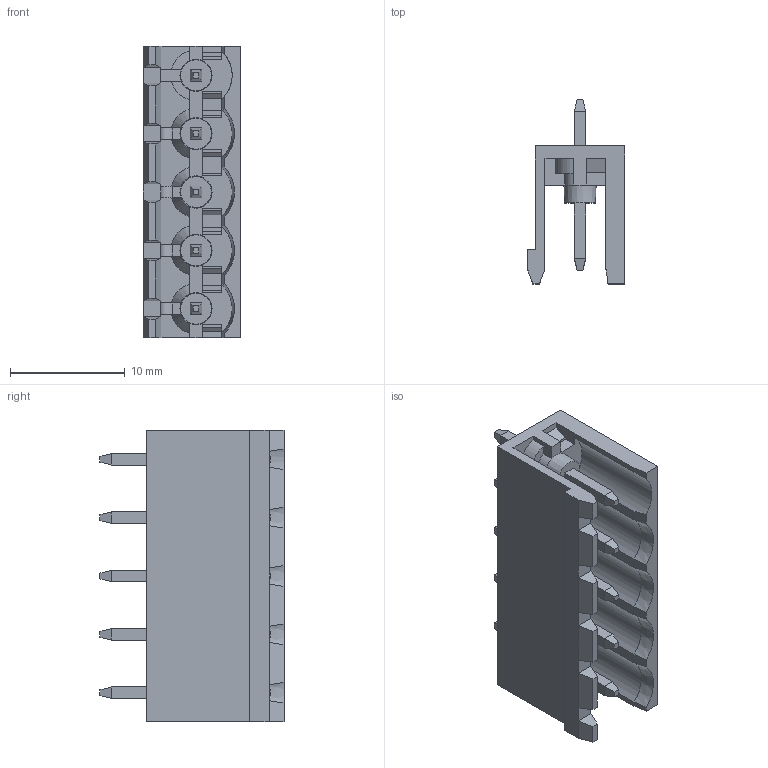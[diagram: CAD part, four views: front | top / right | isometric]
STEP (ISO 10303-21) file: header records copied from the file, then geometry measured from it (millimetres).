
FILE_DESCRIPTION (( 'STEP AP203' ), '1' );
FILE_NAME ('BR8MC1-05.STEP', '2020-03-18T02:40:54', ( '' ), ( '' ), 'SwSTEP 2.0', 'SolidWorks 2019', '' );
FILE_SCHEMA (( 'CONFIG_CONTROL_DESIGN' ));
Length unit declared in the file: millimetre
Products named in the file (1): BR8MC1-05
Bounding box: 8.5 x 16.03 x 25.4 mm (x, y, z)
Volume: 964.9 mm3; surface area: 2188.2 mm2
Topology: 1 solids, 1 shells, 434 faces, 1134 edges, 702 vertices
Faces by surface type: plane 376, cylinder 26, cone 22, sphere 10
Entity records: 12968 total; most frequent: CARTESIAN_POINT 2441, ORIENTED_EDGE 2228, DIRECTION 2041, EDGE_CURVE 1114, LINE 961, VECTOR 961, VERTEX_POINT 692, AXIS2_PLACEMENT_3D 540
